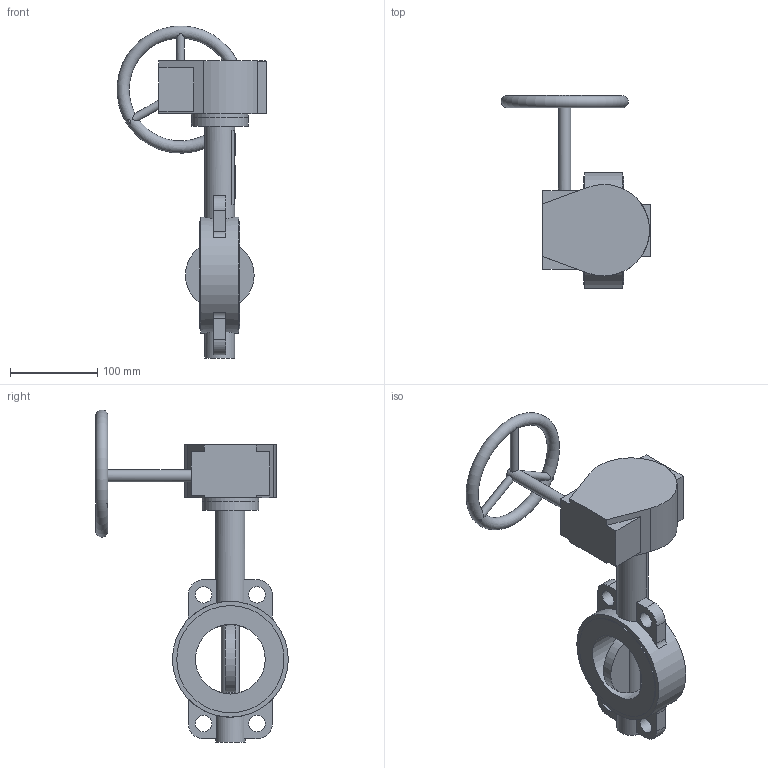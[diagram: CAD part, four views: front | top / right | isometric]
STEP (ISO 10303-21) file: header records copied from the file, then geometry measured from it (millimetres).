
FILE_DESCRIPTION(('STEP AP203'), '1');
FILE_NAME('Çàòâîð 017W.Z(÷óãóí) DN80 PN10_16 ðåäóêòîð', '', ('UNSPECIFIED'), ('UNSPECIFIED'), 'ASCON STEP Converter 1.6', 'ASCON Math Kernel', '');
FILE_SCHEMA(('CONFIG_CONTROL_DESIGN'));
Length unit declared in the file: millimetre
Bounding box: 171.78 x 221 x 380.97 mm (x, y, z)
Volume: 764347 mm3; surface area: 174074.1 mm2
Topology: 1 solids, 2 shells, 682 faces, 1978 edges, 1274 vertices
Faces by surface type: cylinder 484, plane 197, torus 1
Full cylindrical faces by diameter (mm): 5 x4, 8 x4, 9 x3, 12.6 x1, 14 x1, 19 x4, 21 x1, 34 x2, 35 x1, 65 x2, 80 x1, 123 x2, 133 x1
Entity records: 30361 total; most frequent: CARTESIAN_POINT 6030, DIRECTION 4309, ORIENTED_EDGE 3835, EDGE_CURVE 1949, AXIS2_PLACEMENT_3D 1703, VERTEX_POINT 1273, CIRCLE 1020, LINE 903
